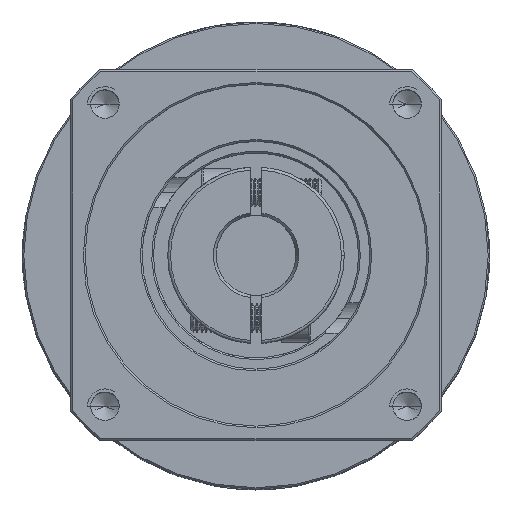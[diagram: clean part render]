
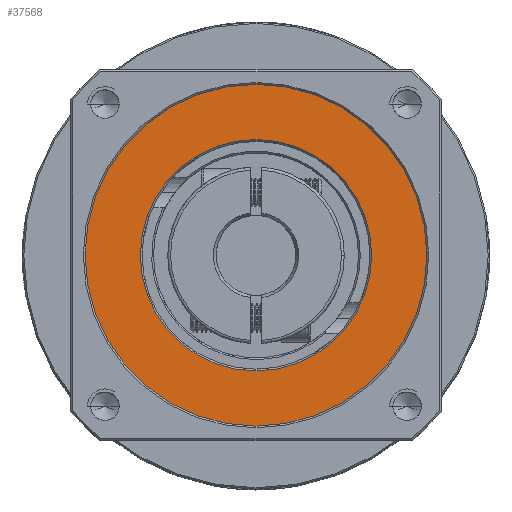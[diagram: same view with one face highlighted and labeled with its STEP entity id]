
A CAD part, top view. The second image highlights one B-rep face of the part: STEP entity #37568.
In plain terms, the highlighted planar face has unit normal (0, 0, 1).
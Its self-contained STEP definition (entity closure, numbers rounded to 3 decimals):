
#2894 = CIRCLE ( 'NONE', #122658, 20.3 ) ;
#3533 = FACE_OUTER_BOUND ( 'NONE', #131121, .T. ) ;
#4866 = DIRECTION ( 'NONE',  ( 1., 0., 0. ) ) ;
#10208 = CARTESIAN_POINT ( 'NONE',  ( -72.084, 16.078, 34.529 ) ) ;
#11530 = CARTESIAN_POINT ( 'NONE',  ( -72.084, 16.078, 34.529 ) ) ;
#20401 = DIRECTION ( 'NONE',  ( 1., 0., 0. ) ) ;
#21000 = ORIENTED_EDGE ( 'NONE', *, *, #62103, .T. ) ;
#21696 = DIRECTION ( 'NONE',  ( 1., 0., 0. ) ) ;
#32981 = EDGE_CURVE ( 'NONE', #65249, #74810, #2894, .T. ) ;
#34500 = CARTESIAN_POINT ( 'NONE',  ( -51.784, 16.078, 34.529 ) ) ;
#37568 = ADVANCED_FACE ( 'NONE', ( #81141, #3533 ), #69264, .T. ) ;
#45042 = VERTEX_POINT ( 'NONE', #51932 ) ;
#46930 = CARTESIAN_POINT ( 'NONE',  ( -92.384, 16.078, 34.529 ) ) ;
#49329 = DIRECTION ( 'NONE',  ( 0., 0., 1. ) ) ;
#49665 = DIRECTION ( 'NONE',  ( 0., 0., -1. ) ) ;
#50420 = AXIS2_PLACEMENT_3D ( 'NONE', #109881, #49329, #120025 ) ;
#51932 = CARTESIAN_POINT ( 'NONE',  ( -42.084, 16.078, 34.529 ) ) ;
#55204 = EDGE_LOOP ( 'NONE', ( #100335, #71858 ) ) ;
#62103 = EDGE_CURVE ( 'NONE', #62258, #45042, #63762, .T. ) ;
#62258 = VERTEX_POINT ( 'NONE', #104403 ) ;
#63233 = AXIS2_PLACEMENT_3D ( 'NONE', #10208, #81053, #20401 ) ;
#63762 = CIRCLE ( 'NONE', #63233, 30. ) ;
#65249 = VERTEX_POINT ( 'NONE', #34500 ) ;
#65549 = DIRECTION ( 'NONE',  ( 0., 0., -1. ) ) ;
#68042 = AXIS2_PLACEMENT_3D ( 'NONE', #110231, #49665, #120387 ) ;
#68676 = CIRCLE ( 'NONE', #68042, 20.3 ) ;
#68973 = AXIS2_PLACEMENT_3D ( 'NONE', #11530, #82369, #21696 ) ;
#69264 = PLANE ( 'NONE',  #50420 ) ;
#70214 = ORIENTED_EDGE ( 'NONE', *, *, #96982, .T. ) ;
#71858 = ORIENTED_EDGE ( 'NONE', *, *, #113414, .T. ) ;
#74810 = VERTEX_POINT ( 'NONE', #46930 ) ;
#81053 = DIRECTION ( 'NONE',  ( 0., 0., 1. ) ) ;
#81141 = FACE_BOUND ( 'NONE', #55204, .T. ) ;
#82369 = DIRECTION ( 'NONE',  ( 0., 0., 1. ) ) ;
#96982 = EDGE_CURVE ( 'NONE', #45042, #62258, #110398, .T. ) ;
#100335 = ORIENTED_EDGE ( 'NONE', *, *, #32981, .T. ) ;
#104403 = CARTESIAN_POINT ( 'NONE',  ( -102.084, 16.078, 34.529 ) ) ;
#109881 = CARTESIAN_POINT ( 'NONE',  ( -72.084, 16.078, 34.529 ) ) ;
#110231 = CARTESIAN_POINT ( 'NONE',  ( -72.084, 16.078, 34.529 ) ) ;
#110398 = CIRCLE ( 'NONE', #68973, 30. ) ;
#113414 = EDGE_CURVE ( 'NONE', #74810, #65249, #68676, .T. ) ;
#120025 = DIRECTION ( 'NONE',  ( 1., 0., 0. ) ) ;
#120387 = DIRECTION ( 'NONE',  ( 1., 0., 0. ) ) ;
#122658 = AXIS2_PLACEMENT_3D ( 'NONE', #126065, #65549, #4866 ) ;
#126065 = CARTESIAN_POINT ( 'NONE',  ( -72.084, 16.078, 34.529 ) ) ;
#131121 = EDGE_LOOP ( 'NONE', ( #70214, #21000 ) ) ;
